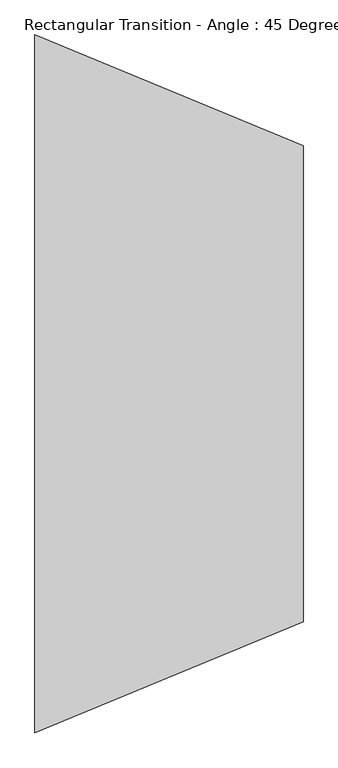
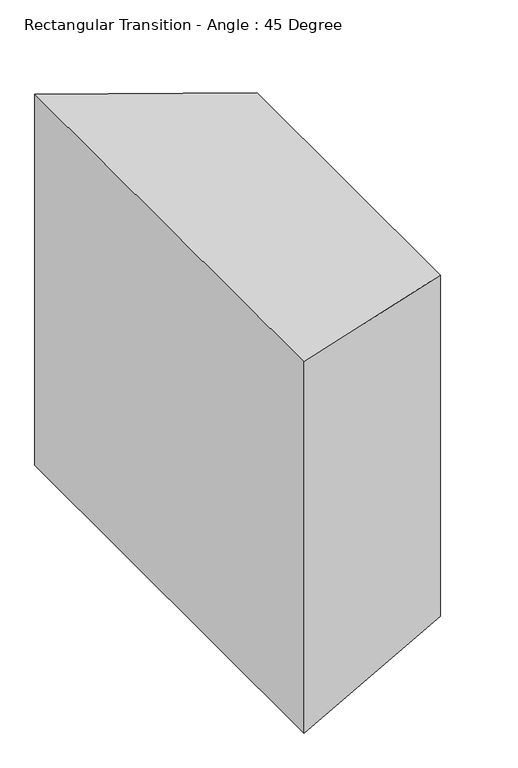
"""IFC4 building model written with IfcOpenShell, lengths in millimetres: duct fitting geometry, Rectangular Transition - Angle : 45 Degree."""

from ifc_helpers import new_model, si_unit, origin, place, context, project, spatial, faceted_brep, source, transform, mapped, element, save


def rectangular_transition_angle_45_degree_4db88495(model_context):
    return source(origin(), model_context, "Body", "Brep", [
        faceted_brep([(429.2471714, -381.0, 431.8), (429.2471714, -381.0, -431.8), (429.2471714, 381.0, -431.8), (429.2471714, 381.0, 431.8), (0.0, -558.8, 469.9), (0.0, 558.8, 469.9), (0.0, 558.8, -469.9), (0.0, -558.8, -469.9)], [[[0, 1, 2, 3]], [[4, 5, 6, 7]], [[4, 7, 1, 0]], [[7, 6, 2, 1]], [[6, 5, 3, 2]], [[5, 4, 0, 3]]]),
    ])


if __name__ == "__main__":
    model = new_model("IFC4")
    model_context = context("Model", 3, world=origin())
    ifc_project = project(units=[si_unit("LENGTHUNIT", "METRE", prefix="MILLI")], contexts=[model_context])
    site = spatial("IfcSite", under=ifc_project)
    building = spatial("IfcBuilding", under=site)
    placement = place(None, origin())
    rectangular_transition_angle_45_degree_shape = rectangular_transition_angle_45_degree_4db88495(model_context)
    element("IfcDuctFitting", 1, ObjectType="Rectangular Transition - Angle : 45 Degree", at=placement, inside=building, context=model_context, shape_type="MappedRepresentation", body=[
        mapped(rectangular_transition_angle_45_degree_shape, transform((0.0, 0.0, 0.0), x_axis=(1.0, 0.0, 0.0), y_axis=(0.0, 1.0, 0.0), z_axis=(0.0, 0.0, 1.0))),
    ])
    save(model, "model.ifc")
